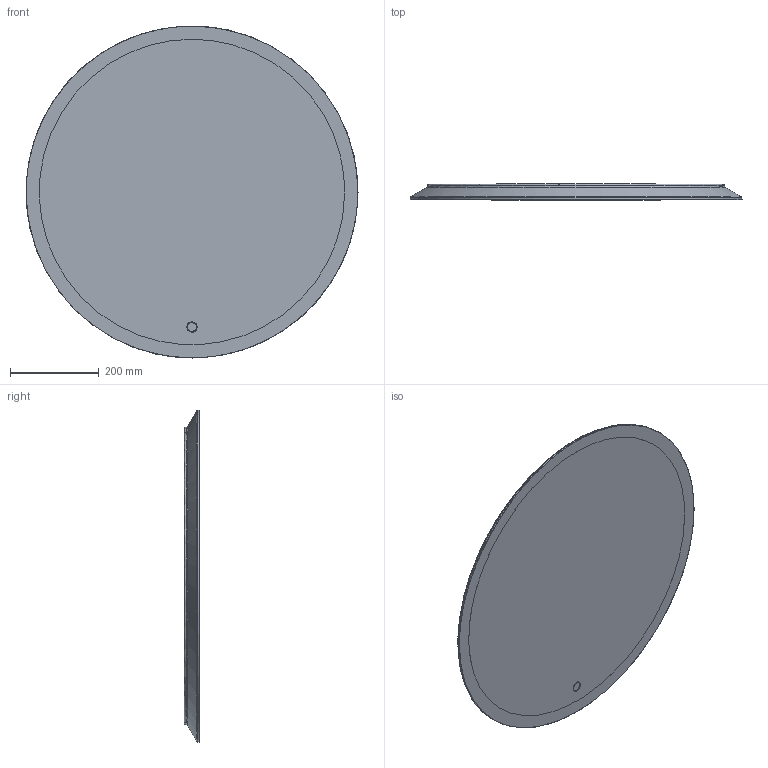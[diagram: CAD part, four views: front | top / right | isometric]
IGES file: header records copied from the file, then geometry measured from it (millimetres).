
Global section: file name: 502798; native system: Autodesk Inventor 2021; preprocessor: unknown; author: JANAN; date: 20221202.150747; units: millimetre
Bounding box: 750 x 35.1 x 750 mm (x, y, z)
Volume: 13890749.1 mm3; surface area: 1936267.6 mm2
Topology: 4 solids, 4 shells, 25 faces, 55 edges, 41 vertices
Faces by surface type: bspline 25
